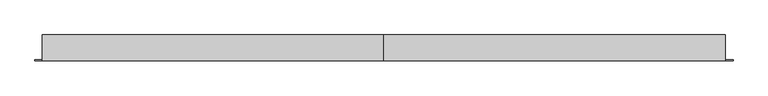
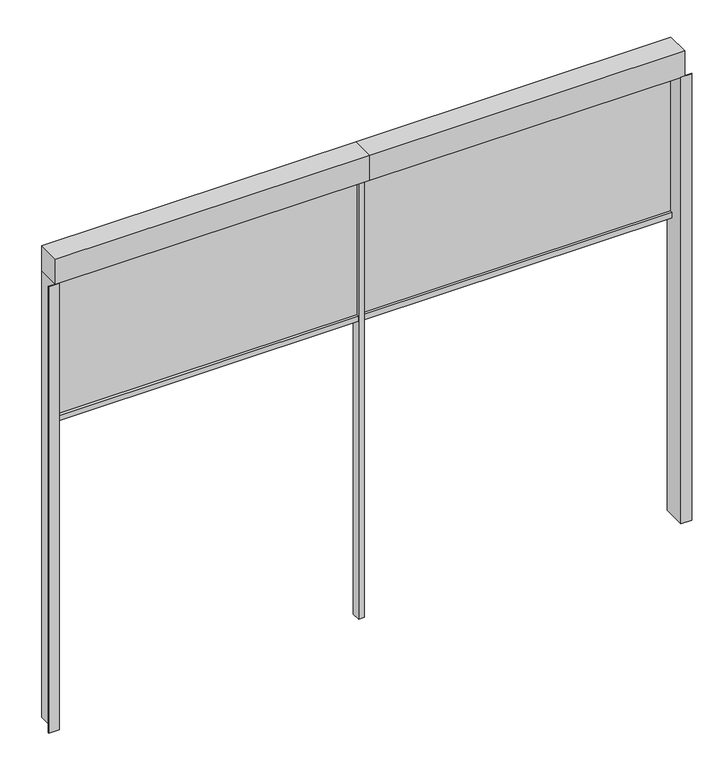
"""IFC4 building model written with IfcOpenShell, lengths in millimetres: proxy geometry, Renson_Fixscreen_Minimal_IM7B_With_CF : Recessed - Front of the window - Medium-CF - Access downwards - Fabric away from the window."""

from ifc_helpers import new_model, si_unit, frame, origin, place, context, project, spatial, polyline, outline, extrude, source, transform, mapped, element, save


def generic_models_cc4518e1(model_context):
    return source(origin(), model_context, "Body", "SweptSolid", [
        extrude(outline(polyline([(-775.0, -65.0), (-842.75, -65.0), (-842.75, -61.0), (-798.5, -61.0), (-798.5, 85.0), (-775.0, 85.0), (-775.0, -65.0)])), frame((0.0, 0.0, 800.0), z_axis=(0.0, 0.0, 1.0), x_axis=(1.0, 0.0, 0.0)), (0.0, 0.0, 1.0), 3000.0),
        extrude(outline(polyline([(-780.65, 49.0), (-780.65, 52.0), (1182.75, 52.0), (1182.75, 49.0), (-780.65, 49.0)])), frame((0.0, 0.0, 2812.5006852), z_axis=(0.0, 0.0, 1.0), x_axis=(1.0, 0.0, 0.0)), (0.0, 0.0, 1.0), 987.4993148),
        extrude(outline(polyline([(70.95, 2800.0), (30.45, 2800.0), (30.45, 2834.1156799), (47.85, 2835.0275753), (47.85, 2812.5006852), (53.55, 2812.5006852), (53.55, 2835.0275753), (70.95, 2834.1156799), (70.95, 2800.0)])), frame((-780.65, 0.0, 0.0), z_axis=(1.0, 0.0, 0.0), x_axis=(0.0, 1.0, 0.0)), (0.0, 0.0, 1.0), 1963.4),
        extrude(outline(polyline([(70.9955279, 2800.0), (30.4955279, 2800.0), (30.4955279, 2834.1156799), (47.8955279, 2835.0275753), (47.8955279, 2812.5006852), (53.5955279, 2812.5006852), (53.5955279, 2835.0275753), (70.9955279, 2834.1156799), (70.9955279, 2800.0)])), frame((1219.3, 0.0, 0.0), z_axis=(1.0, 0.0, 0.0), x_axis=(0.0, 1.0, 0.0)), (0.0, 0.0, 1.0), 1957.7),
        extrude(outline(polyline([(1219.3, 49.0), (1219.3, 52.0), (3177.0, 52.0), (3177.0, 49.0), (1219.3, 49.0)])), frame((0.0, 0.0, 2812.5006852), z_axis=(0.0, 0.0, 1.0), x_axis=(1.0, 0.0, 0.0)), (0.0, 0.0, 1.0), 987.4993148),
        extrude(outline(polyline([(3177.0, -65.0), (3177.0, 85.0), (3201.0, 85.0), (3201.0, -61.0), (3247.5, -61.0), (3247.5, -65.0), (3177.0, -65.0)])), frame((0.0, 0.0, 800.0), z_axis=(0.0, 0.0, 1.0), x_axis=(1.0, 0.0, 0.0)), (0.0, 0.0, 1.0), 3000.0),
        extrude(outline(polyline([(1201.0, -65.0), (1201.0, 85.0), (3201.0, 85.0), (3201.0, -65.0), (1201.0, -65.0)])), frame((0.0, 0.0, 3800.0), z_axis=(0.0, 0.0, 1.0), x_axis=(1.0, 0.0, 0.0)), (0.0, 0.0, 1.0), 170.0),
        extrude(outline(polyline([(-799.0, -65.0), (-799.0, 85.0), (1201.0, 85.0), (1201.0, -65.0), (-799.0, -65.0)])), frame((0.0, 0.0, 3800.0), z_axis=(0.0, 0.0, 1.0), x_axis=(1.0, 0.0, 0.0)), (0.0, 0.0, 1.0), 170.0),
        extrude(outline(polyline([(1219.25, 85.0), (1219.25, 28.75), (1182.75, 28.75), (1182.75, 85.0), (1219.25, 85.0)])), frame((0.0, 0.0, 800.0), z_axis=(0.0, 0.0, 1.0), x_axis=(1.0, 0.0, 0.0)), (0.0, 0.0, 1.0), 3000.0),
    ])


if __name__ == "__main__":
    model = new_model("IFC4")
    model_context = context("Model", 3, world=origin())
    ifc_project = project(units=[si_unit("LENGTHUNIT", "METRE", prefix="MILLI")], contexts=[model_context])
    site = spatial("IfcSite", under=ifc_project)
    building = spatial("IfcBuilding", under=site)
    placement = place(None, origin())
    generic_models_shape = generic_models_cc4518e1(model_context)
    element("IfcBuildingElementProxy", 1, Name="Renson_Fixscreen_Minimal_IM7B_With_CF : Recessed - Front of the window - Medium-CF - Access downwards - Fabric away from the window", ObjectType="Renson_Fixscreen_Minimal_IM7B_With_CF : Recessed - Front of the window - Medium-CF - Access downwards - Fabric away from the window", at=placement, inside=building, context=model_context, shape_type="MappedRepresentation", body=[
        mapped(generic_models_shape, transform((0.0, 0.0, 0.0), x_axis=(1.0, 0.0, 0.0), y_axis=(0.0, 1.0, 0.0), z_axis=(0.0, 0.0, 1.0))),
    ])
    save(model, "model.ifc")
